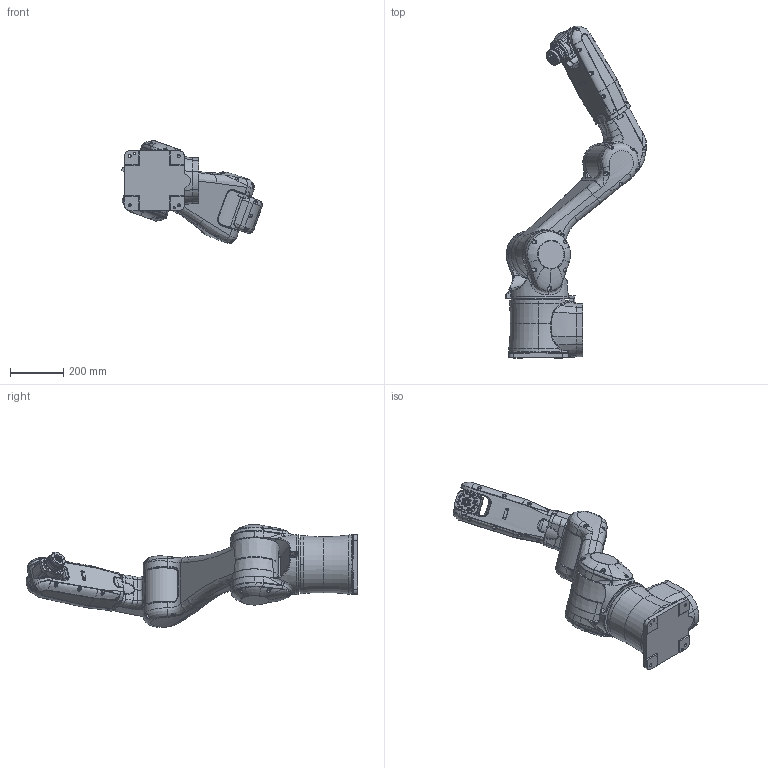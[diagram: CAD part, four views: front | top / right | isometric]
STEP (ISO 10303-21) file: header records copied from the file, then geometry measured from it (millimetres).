
FILE_DESCRIPTION (( 'STEP AP203' ), '1' );
FILE_NAME ('MR07S-930溘淩耀倰8.3.STEP', '2023-08-03T07:07:42', ( '' ), ( '' ), 'SwSTEP 2.0', 'SolidWorks 2018', '' );
FILE_SCHEMA (( 'CONFIG_CONTROL_DESIGN' ));
Length unit declared in the file: millimetre
Products named in the file (8): MR07S-930俋楷耀倰.sldasm-Part-4; MR07S-930俋楷耀倰.sldasm-Part-7; MR07S-930俋楷耀倰.sldasm-Part-1; MR07S-930俋楷耀倰.sldasm-Part-3; MR07S-930俋楷耀倰.sldasm-Part-2; MR07S-930溘淩耀倰8.3; MR07S-930俋楷耀倰.sldasm-Part-6; MR07S-930俋楷耀倰.sldasm-Part-5
Assembly tree (7 placements, depth 2):
  MR07S-930溘淩耀倰8.3
    MR07S-930俋楷耀倰.sldasm-Part-1
    MR07S-930俋楷耀倰.sldasm-Part-2
    MR07S-930俋楷耀倰.sldasm-Part-3
    MR07S-930俋楷耀倰.sldasm-Part-4
    MR07S-930俋楷耀倰.sldasm-Part-5
    MR07S-930俋楷耀倰.sldasm-Part-6
    MR07S-930俋楷耀倰.sldasm-Part-7
Bounding box: 530.41 x 1249.59 x 387.54 mm (x, y, z)
Volume: 35441993.2 mm3; surface area: 1496830.8 mm2
Topology: 7 solids, 10 shells, 2375 faces, 5880 edges, 3577 vertices
Faces by surface type: bspline 764, plane 653, cylinder 631, torus 225, cone 90, sphere 12
Entity records: 134505 total; most frequent: CARTESIAN_POINT 83102, ORIENTED_EDGE 11656, DIRECTION 9190, EDGE_CURVE 5828, AXIS2_PLACEMENT_3D 3728, VERTEX_POINT 3576, EDGE_LOOP 2518, FACE_OUTER_BOUND 2375
